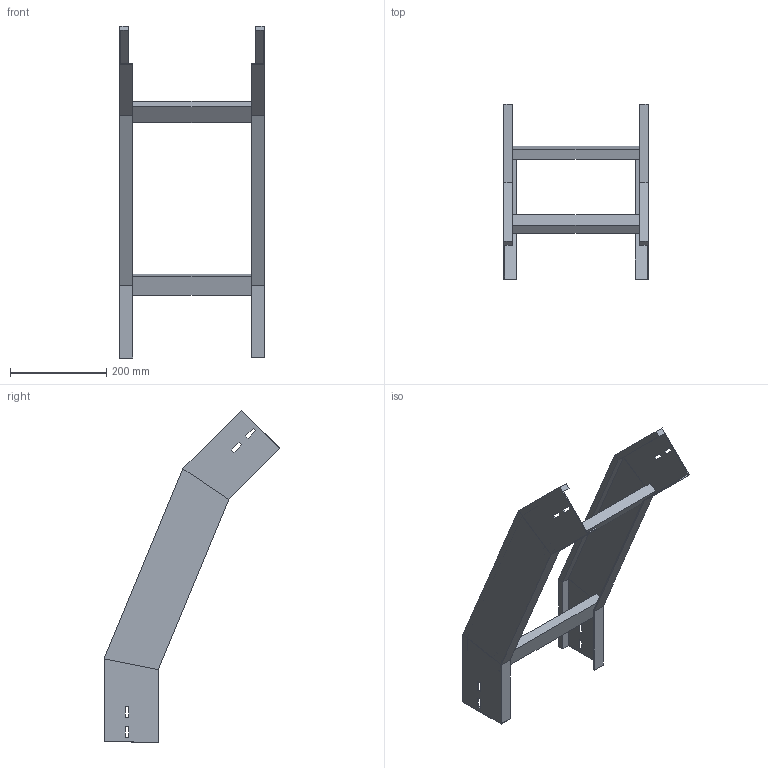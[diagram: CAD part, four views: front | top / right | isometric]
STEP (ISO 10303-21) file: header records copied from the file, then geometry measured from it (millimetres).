
FILE_DESCRIPTION (( 'STEP AP214' ), '1' );
FILE_NAME ('34B5J300.step', '2025-02-21T14:52:38', ( '' ), ( '' ), 'SwSTEP 2.0', 'SolidWorks 2023', '' );
FILE_SCHEMA (( 'AUTOMOTIVE_DESIGN' ));
Length unit declared in the file: millimetre
Products named in the file (3): 34B5J300; LONGH.DISCESA_45°_H112.5_R500; TRAVERSINO_300
Assembly tree (5 placements, depth 2):
  34B5J300
    LONGH.DISCESA_45°_H112.5_R500  x2
    TRAVERSINO_300  x3
Bounding box: 300 x 365.13 x 689.46 mm (x, y, z)
Volume: 1407496.3 mm3; surface area: 563466.6 mm2
Topology: 5 solids, 5 shells, 102 faces, 244 edges, 152 vertices
Faces by surface type: plane 102
Entity records: 1480 total; most frequent: CARTESIAN_POINT 244, ORIENTED_EDGE 232, DIRECTION 228, VECTOR 116, EDGE_CURVE 116, LINE 116, VERTEX_POINT 72, AXIS2_PLACEMENT_3D 56
